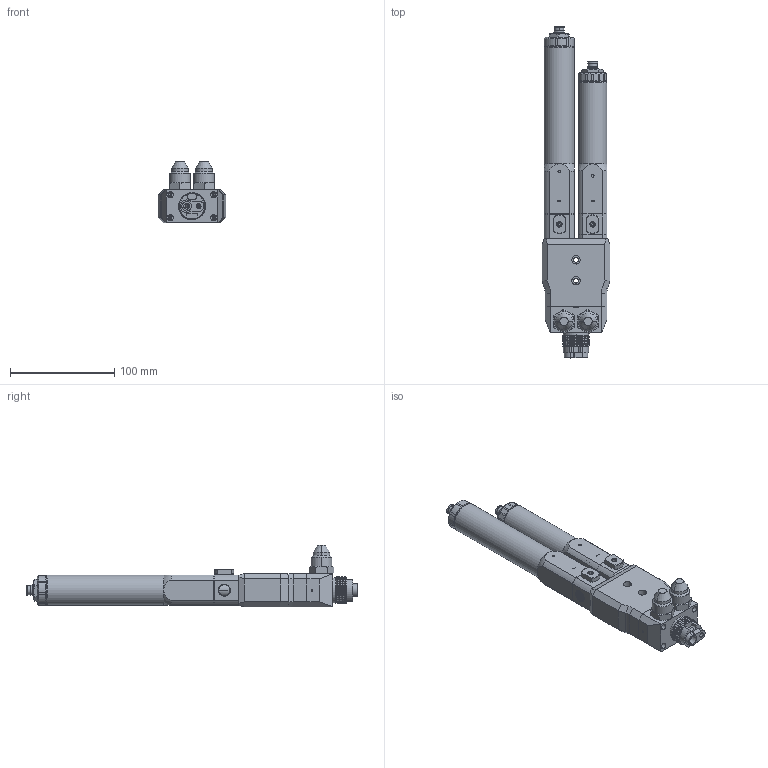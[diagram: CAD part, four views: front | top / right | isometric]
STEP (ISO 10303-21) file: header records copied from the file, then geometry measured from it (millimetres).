
FILE_DESCRIPTION (( 'STEP AP214' ), '1' );
FILE_NAME ('PDP-500-050FB.STEP', '2024-10-11T12:09:53', ( '' ), ( '' ), 'SwSTEP 2.0', 'SolidWorks 2024', '' );
FILE_SCHEMA (( 'AUTOMOTIVE_DESIGN' ));
Length unit declared in the file: millimetre
Products named in the file (1): PDP-500-050FB
Bounding box: 65 x 318 x 59.3 mm (x, y, z)
Volume: 420669.5 mm3; surface area: 101721.7 mm2
Topology: 12 solids, 12 shells, 1264 faces, 3101 edges, 1955 vertices
Faces by surface type: cylinder 474, plane 454, cone 295, bspline 25, torus 8, sphere 8
Full cylindrical faces by diameter (mm): 27 x1, 29 x1
Entity records: 59357 total; most frequent: CARTESIAN_POINT 29962, ORIENTED_EDGE 6130, DIRECTION 6053, EDGE_CURVE 3065, AXIS2_PLACEMENT_3D 2396, VERTEX_POINT 1955, EDGE_LOOP 1432, FACE_OUTER_BOUND 1266
